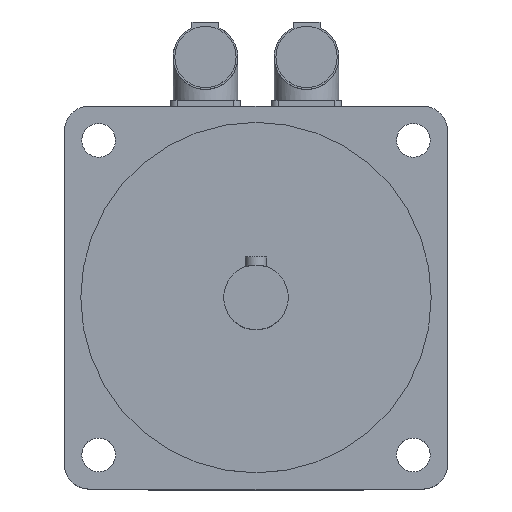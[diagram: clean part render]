
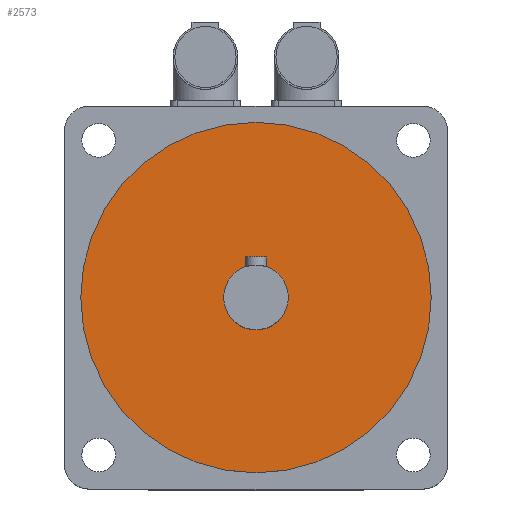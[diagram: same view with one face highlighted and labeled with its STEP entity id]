
A CAD part, top view. The second image highlights one B-rep face of the part: STEP entity #2573.
In plain terms, the highlighted planar face has unit normal (0, 0, 1).
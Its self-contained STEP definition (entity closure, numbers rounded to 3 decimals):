
#40=FACE_BOUND('',#443,.T.);
#68=CIRCLE('',#2730,12.);
#69=CIRCLE('',#2733,65.);
#285=FACE_OUTER_BOUND('',#442,.T.);
#442=EDGE_LOOP('',(#1750));
#443=EDGE_LOOP('',(#1751));
#1090=VERTEX_POINT('',#3908);
#1091=VERTEX_POINT('',#3912);
#1348=EDGE_CURVE('',#1090,#1090,#68,.T.);
#1349=EDGE_CURVE('',#1091,#1091,#69,.T.);
#1750=ORIENTED_EDGE('',*,*,#1349,.T.);
#1751=ORIENTED_EDGE('',*,*,#1348,.T.);
#2497=PLANE('',#2735);
#2573=ADVANCED_FACE('',(#285,#40),#2497,.F.);
#2730=AXIS2_PLACEMENT_3D('',#3909,#3045,#3046);
#2733=AXIS2_PLACEMENT_3D('',#3913,#3051,#3052);
#2735=AXIS2_PLACEMENT_3D('',#3916,#3055,#3056);
#3045=DIRECTION('center_axis',(0.,0.,
-1.));
#3046=DIRECTION('ref_axis',(-1.,0.,0.));
#3051=DIRECTION('center_axis',(0.,0.,
1.));
#3052=DIRECTION('ref_axis',(-1.,0.,0.));
#3055=DIRECTION('center_axis',(0.,0.,
-1.));
#3056=DIRECTION('ref_axis',(-1.,0.,0.));
#3908=CARTESIAN_POINT('',(12.,0.,186.5));
#3909=CARTESIAN_POINT('Origin',(0.,0.,
186.5));
#3912=CARTESIAN_POINT('',(65.,0.,186.5));
#3913=CARTESIAN_POINT('Origin',(0.,0.,
186.5));
#3916=CARTESIAN_POINT('Origin',(0.,0.,
186.5));
